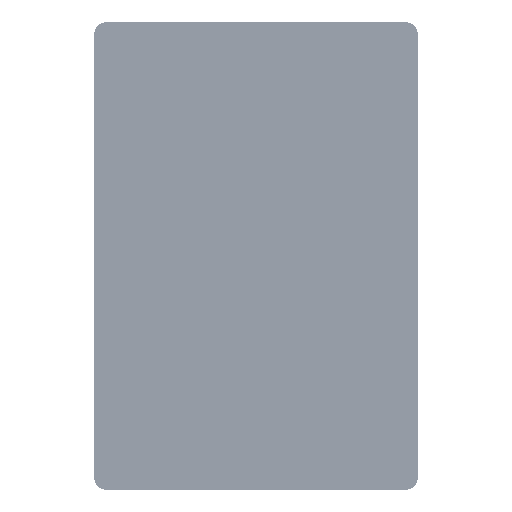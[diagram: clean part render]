
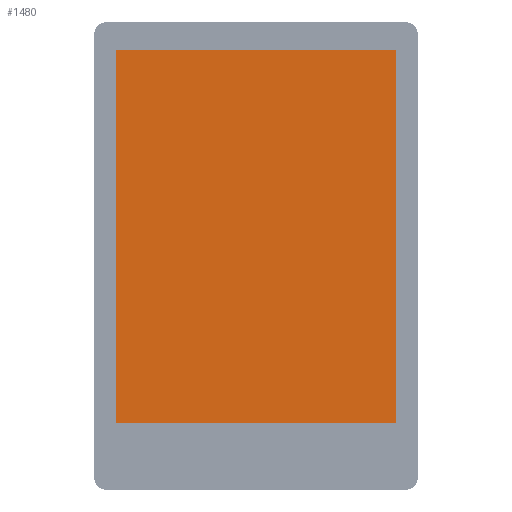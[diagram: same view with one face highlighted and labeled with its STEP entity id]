
A CAD part, top view. The second image highlights one B-rep face of the part: STEP entity #1480.
In plain terms, the highlighted planar face has unit normal (0, 0, 1).
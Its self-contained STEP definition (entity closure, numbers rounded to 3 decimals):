
#282=DIRECTION('',(1.,0.,0.));
#283=VECTOR('',#282,43.8);
#284=CARTESIAN_POINT('',(-21.9,29.1,0.65));
#285=LINE('',#284,#283);
#289=DIRECTION('',(0.,1.,0.));
#290=VECTOR('',#289,58.2);
#291=CARTESIAN_POINT('',(21.9,-29.1,0.65));
#292=LINE('',#291,#290);
#296=DIRECTION('',(1.,0.,0.));
#297=VECTOR('',#296,43.8);
#298=CARTESIAN_POINT('',(-21.9,-29.1,0.65));
#299=LINE('',#298,#297);
#303=DIRECTION('',(0.,1.,0.));
#304=VECTOR('',#303,58.2);
#305=CARTESIAN_POINT('',(-21.9,-29.1,0.65));
#306=LINE('',#305,#304);
#1115=CARTESIAN_POINT('',(-21.9,29.1,0.65));
#1116=CARTESIAN_POINT('',(21.9,29.1,0.65));
#1117=VERTEX_POINT('',#1115);
#1118=VERTEX_POINT('',#1116);
#1119=CARTESIAN_POINT('',(21.9,-29.1,0.65));
#1120=VERTEX_POINT('',#1119);
#1121=CARTESIAN_POINT('',(-21.9,-29.1,0.65));
#1122=VERTEX_POINT('',#1121);
#1466=CARTESIAN_POINT('',(0.,0.,0.65));
#1467=DIRECTION('',(0.,0.,1.));
#1468=DIRECTION('',(1.,0.,0.));
#1469=AXIS2_PLACEMENT_3D('',#1466,#1467,#1468);
#1470=PLANE('',#1469);
#1471=ORIENTED_EDGE('',*,*,#1456,.T.);
#1473=ORIENTED_EDGE('',*,*,#1472,.F.);
#1475=ORIENTED_EDGE('',*,*,#1474,.F.);
#1477=ORIENTED_EDGE('',*,*,#1476,.T.);
#1478=EDGE_LOOP('',(#1471,#1473,#1475,#1477));
#1479=FACE_OUTER_BOUND('',#1478,.F.);
#1480=ADVANCED_FACE('',(#1479),#1470,.T.);
#1456=EDGE_CURVE('',#1117,#1118,#285,.T.);
#1472=EDGE_CURVE('',#1120,#1118,#292,.T.);
#1474=EDGE_CURVE('',#1122,#1120,#299,.T.);
#1476=EDGE_CURVE('',#1122,#1117,#306,.T.);
